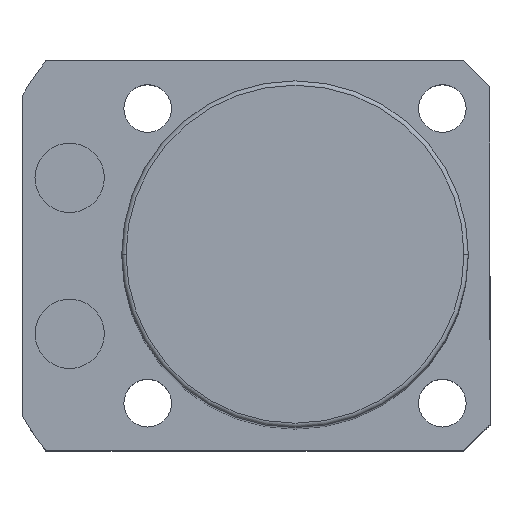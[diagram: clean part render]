
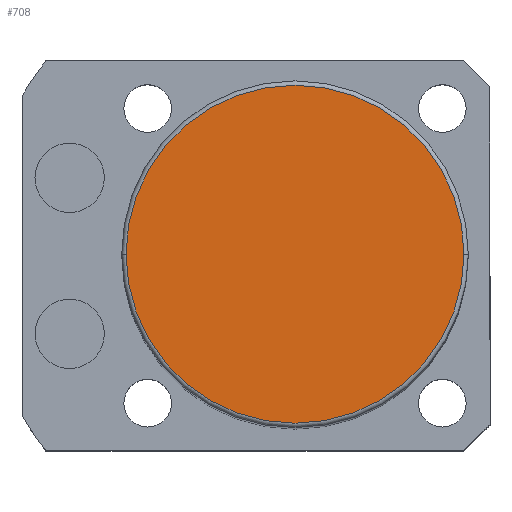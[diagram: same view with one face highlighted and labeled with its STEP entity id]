
A CAD part, top view. The second image highlights one B-rep face of the part: STEP entity #708.
In plain terms, the highlighted planar face has unit normal (0, 0, 1).
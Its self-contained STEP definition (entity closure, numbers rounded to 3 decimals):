
#181 = AXIS2_PLACEMENT_3D ( 'NONE', #2087, #1198, #279 ) ;
#279 = DIRECTION ( 'NONE',  ( 1., 0., 0. ) ) ;
#384 = CARTESIAN_POINT ( 'NONE',  ( 0., 0., 118.5 ) ) ;
#504 = CARTESIAN_POINT ( 'NONE',  ( 0., 0., 118.5 ) ) ;
#614 = ORIENTED_EDGE ( 'NONE', *, *, #1418, .T. ) ;
#708 = ADVANCED_FACE ( 'NONE', ( #1316 ), #821, .T. ) ;
#744 = EDGE_CURVE ( 'NONE', #1054, #1811, #1085, .T. ) ;
#821 = PLANE ( 'NONE',  #181 ) ;
#917 = ORIENTED_EDGE ( 'NONE', *, *, #744, .T. ) ;
#957 = CARTESIAN_POINT ( 'NONE',  ( -19.5, 0., 118.5 ) ) ;
#996 = CARTESIAN_POINT ( 'NONE',  ( 19.5, 0., 118.5 ) ) ;
#1054 = VERTEX_POINT ( 'NONE', #996 ) ;
#1085 = CIRCLE ( 'NONE', #1450, 19.5 ) ;
#1198 = DIRECTION ( 'NONE',  ( 0., 0., 1. ) ) ;
#1288 = EDGE_LOOP ( 'NONE', ( #917, #614 ) ) ;
#1316 = FACE_OUTER_BOUND ( 'NONE', #1288, .T. ) ;
#1367 = CIRCLE ( 'NONE', #1561, 19.5 ) ;
#1418 = EDGE_CURVE ( 'NONE', #1811, #1054, #1367, .T. ) ;
#1450 = AXIS2_PLACEMENT_3D ( 'NONE', #504, #1971, #1580 ) ;
#1561 = AXIS2_PLACEMENT_3D ( 'NONE', #384, #2184, #2020 ) ;
#1580 = DIRECTION ( 'NONE',  ( 1., 0., 0. ) ) ;
#1811 = VERTEX_POINT ( 'NONE', #957 ) ;
#1971 = DIRECTION ( 'NONE',  ( 0., 0., 1. ) ) ;
#2020 = DIRECTION ( 'NONE',  ( 1., 0., 0. ) ) ;
#2087 = CARTESIAN_POINT ( 'NONE',  ( 0., 0., 118.5 ) ) ;
#2184 = DIRECTION ( 'NONE',  ( 0., 0., 1. ) ) ;
